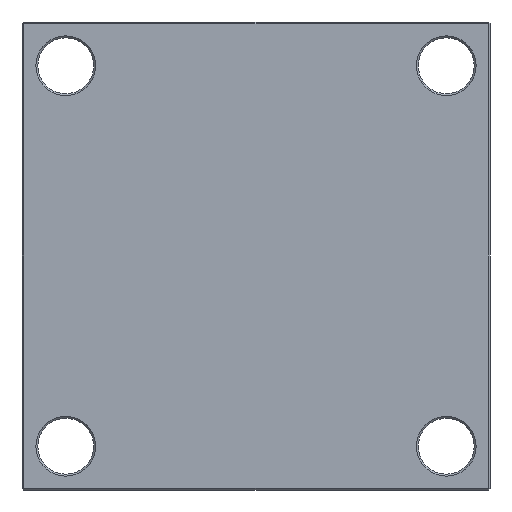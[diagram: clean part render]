
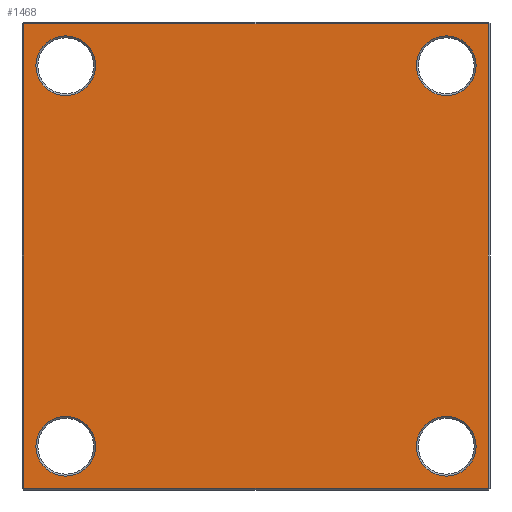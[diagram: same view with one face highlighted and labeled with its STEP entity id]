
A CAD part, front view. The second image highlights one B-rep face of the part: STEP entity #1468.
In plain terms, the highlighted planar face has unit normal (0, -1, 0).
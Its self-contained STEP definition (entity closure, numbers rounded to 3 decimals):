
#17 = EDGE_CURVE ( 'NONE', #808, #747, #1607, .T. ) ;
#77 = FACE_BOUND ( 'NONE', #450, .T. ) ;
#80 = EDGE_LOOP ( 'NONE', ( #269, #1526, #1813, #823 ) ) ;
#86 = DIRECTION ( 'NONE',  ( 0., 1., 0. ) ) ;
#132 = CARTESIAN_POINT ( 'NONE',  ( -122., 0., -122. ) ) ;
#158 = VECTOR ( 'NONE', #528, 1000. ) ;
#180 = EDGE_CURVE ( 'NONE', #1777, #328, #815, .T. ) ;
#183 = EDGE_CURVE ( 'NONE', #1258, #2123, #1201, .T. ) ;
#266 = EDGE_CURVE ( 'NONE', #2071, #1097, #1376, .T. ) ;
#269 = ORIENTED_EDGE ( 'NONE', *, *, #611, .T. ) ;
#283 = AXIS2_PLACEMENT_3D ( 'NONE', #937, #863, #965 ) ;
#285 = ORIENTED_EDGE ( 'NONE', *, *, #17, .T. ) ;
#317 = CARTESIAN_POINT ( 'NONE',  ( -100., 0., -115.7 ) ) ;
#323 = CARTESIAN_POINT ( 'NONE',  ( 0., 0., -122. ) ) ;
#328 = VERTEX_POINT ( 'NONE', #1828 ) ;
#335 = CARTESIAN_POINT ( 'NONE',  ( 122., 0., -122. ) ) ;
#343 = ORIENTED_EDGE ( 'NONE', *, *, #786, .T. ) ;
#363 = CARTESIAN_POINT ( 'NONE',  ( 100., 0., 84.3 ) ) ;
#364 = EDGE_CURVE ( 'NONE', #2123, #1258, #2145, .T. ) ;
#401 = AXIS2_PLACEMENT_3D ( 'NONE', #1270, #1289, #1279 ) ;
#450 = EDGE_LOOP ( 'NONE', ( #1552, #285 ) ) ;
#466 = CARTESIAN_POINT ( 'NONE',  ( -100., 0., -100. ) ) ;
#491 = AXIS2_PLACEMENT_3D ( 'NONE', #1428, #1413, #1166 ) ;
#501 = EDGE_CURVE ( 'NONE', #328, #1777, #1630, .T. ) ;
#526 = DIRECTION ( 'NONE',  ( 0., 0., 1. ) ) ;
#528 = DIRECTION ( 'NONE',  ( 0., 0., -1. ) ) ;
#534 = LINE ( 'NONE', #323, #1364 ) ;
#564 = FACE_BOUND ( 'NONE', #1059, .T. ) ;
#585 = DIRECTION ( 'NONE',  ( 0., 0., 1. ) ) ;
#606 = DIRECTION ( 'NONE',  ( 0., 1., 0. ) ) ;
#611 = EDGE_CURVE ( 'NONE', #845, #2066, #1215, .T. ) ;
#621 = FACE_BOUND ( 'NONE', #934, .T. ) ;
#645 = CARTESIAN_POINT ( 'NONE',  ( 100., 0., -115.7 ) ) ;
#675 = CARTESIAN_POINT ( 'NONE',  ( 122., 0., 0. ) ) ;
#710 = CARTESIAN_POINT ( 'NONE',  ( 100., 0., -100. ) ) ;
#711 = CARTESIAN_POINT ( 'NONE',  ( -100., 0., 100. ) ) ;
#716 = EDGE_LOOP ( 'NONE', ( #343, #2048 ) ) ;
#741 = EDGE_CURVE ( 'NONE', #2066, #2072, #800, .T. ) ;
#747 = VERTEX_POINT ( 'NONE', #888 ) ;
#757 = LINE ( 'NONE', #1506, #158 ) ;
#760 = CARTESIAN_POINT ( 'NONE',  ( 100., 0., -84.3 ) ) ;
#786 = EDGE_CURVE ( 'NONE', #1097, #2071, #2006, .T. ) ;
#789 = DIRECTION ( 'NONE',  ( 0., 0., 1. ) ) ;
#800 = LINE ( 'NONE', #1025, #1615 ) ;
#808 = VERTEX_POINT ( 'NONE', #1523 ) ;
#815 = CIRCLE ( 'NONE', #283, 15.7 ) ;
#823 = ORIENTED_EDGE ( 'NONE', *, *, #944, .T. ) ;
#842 = EDGE_CURVE ( 'NONE', #2072, #1118, #757, .T. ) ;
#845 = VERTEX_POINT ( 'NONE', #335 ) ;
#863 = DIRECTION ( 'NONE',  ( 0., 1., 0. ) ) ;
#888 = CARTESIAN_POINT ( 'NONE',  ( -100., 0., 84.3 ) ) ;
#902 = DIRECTION ( 'NONE',  ( -1., 0., 0. ) ) ;
#918 = AXIS2_PLACEMENT_3D ( 'NONE', #711, #86, #1912 ) ;
#934 = EDGE_LOOP ( 'NONE', ( #2004, #1636 ) ) ;
#937 = CARTESIAN_POINT ( 'NONE',  ( 100., 0., 100. ) ) ;
#944 = EDGE_CURVE ( 'NONE', #1118, #845, #534, .T. ) ;
#965 = DIRECTION ( 'NONE',  ( 0., 0., 1. ) ) ;
#969 = AXIS2_PLACEMENT_3D ( 'NONE', #1018, #2173, #1035 ) ;
#980 = ORIENTED_EDGE ( 'NONE', *, *, #364, .T. ) ;
#1018 = CARTESIAN_POINT ( 'NONE',  ( -100., 0., -100. ) ) ;
#1025 = CARTESIAN_POINT ( 'NONE',  ( 0., 0., 122. ) ) ;
#1035 = DIRECTION ( 'NONE',  ( 0., 0., 1. ) ) ;
#1053 = CARTESIAN_POINT ( 'NONE',  ( 122., 0., 122. ) ) ;
#1059 = EDGE_LOOP ( 'NONE', ( #1359, #980 ) ) ;
#1086 = CARTESIAN_POINT ( 'NONE',  ( -100., 0., -84.3 ) ) ;
#1091 = CARTESIAN_POINT ( 'NONE',  ( -122., 0., 122. ) ) ;
#1097 = VERTEX_POINT ( 'NONE', #317 ) ;
#1118 = VERTEX_POINT ( 'NONE', #132 ) ;
#1166 = DIRECTION ( 'NONE',  ( 0., 0., 1. ) ) ;
#1201 = CIRCLE ( 'NONE', #401, 15.7 ) ;
#1215 = LINE ( 'NONE', #675, #2030 ) ;
#1251 = CARTESIAN_POINT ( 'NONE',  ( 0., 0., 0. ) ) ;
#1258 = VERTEX_POINT ( 'NONE', #645 ) ;
#1270 = CARTESIAN_POINT ( 'NONE',  ( 100., 0., -100. ) ) ;
#1279 = DIRECTION ( 'NONE',  ( 0., 0., 1. ) ) ;
#1289 = DIRECTION ( 'NONE',  ( 0., 1., 0. ) ) ;
#1294 = AXIS2_PLACEMENT_3D ( 'NONE', #2055, #2050, #2036 ) ;
#1314 = AXIS2_PLACEMENT_3D ( 'NONE', #466, #1489, #526 ) ;
#1359 = ORIENTED_EDGE ( 'NONE', *, *, #183, .T. ) ;
#1364 = VECTOR ( 'NONE', #1816, 1000. ) ;
#1376 = CIRCLE ( 'NONE', #1314, 15.7 ) ;
#1413 = DIRECTION ( 'NONE',  ( 0., 1., 0. ) ) ;
#1428 = CARTESIAN_POINT ( 'NONE',  ( -100., 0., 100. ) ) ;
#1468 = ADVANCED_FACE ( 'NONE', ( #1876, #564, #621, #77, #1820 ), #1739, .F. ) ;
#1489 = DIRECTION ( 'NONE',  ( 0., 1., 0. ) ) ;
#1506 = CARTESIAN_POINT ( 'NONE',  ( -122., 0., 0. ) ) ;
#1523 = CARTESIAN_POINT ( 'NONE',  ( -100., 0., 115.7 ) ) ;
#1526 = ORIENTED_EDGE ( 'NONE', *, *, #741, .T. ) ;
#1552 = ORIENTED_EDGE ( 'NONE', *, *, #1750, .T. ) ;
#1575 = AXIS2_PLACEMENT_3D ( 'NONE', #710, #606, #789 ) ;
#1607 = CIRCLE ( 'NONE', #491, 15.7 ) ;
#1615 = VECTOR ( 'NONE', #902, 1000. ) ;
#1630 = CIRCLE ( 'NONE', #1294, 15.7 ) ;
#1636 = ORIENTED_EDGE ( 'NONE', *, *, #501, .T. ) ;
#1650 = CIRCLE ( 'NONE', #918, 15.7 ) ;
#1739 = PLANE ( 'NONE',  #2132 ) ;
#1750 = EDGE_CURVE ( 'NONE', #747, #808, #1650, .T. ) ;
#1777 = VERTEX_POINT ( 'NONE', #363 ) ;
#1813 = ORIENTED_EDGE ( 'NONE', *, *, #842, .T. ) ;
#1816 = DIRECTION ( 'NONE',  ( 1., 0., 0. ) ) ;
#1820 = FACE_OUTER_BOUND ( 'NONE', #80, .T. ) ;
#1828 = CARTESIAN_POINT ( 'NONE',  ( 100., 0., 115.7 ) ) ;
#1876 = FACE_BOUND ( 'NONE', #716, .T. ) ;
#1904 = DIRECTION ( 'NONE',  ( 0., 0., 1. ) ) ;
#1912 = DIRECTION ( 'NONE',  ( 0., 0., 1. ) ) ;
#2004 = ORIENTED_EDGE ( 'NONE', *, *, #180, .T. ) ;
#2006 = CIRCLE ( 'NONE', #969, 15.7 ) ;
#2030 = VECTOR ( 'NONE', #585, 1000. ) ;
#2036 = DIRECTION ( 'NONE',  ( 0., 0., 1. ) ) ;
#2048 = ORIENTED_EDGE ( 'NONE', *, *, #266, .T. ) ;
#2050 = DIRECTION ( 'NONE',  ( 0., 1., 0. ) ) ;
#2055 = CARTESIAN_POINT ( 'NONE',  ( 100., 0., 100. ) ) ;
#2065 = DIRECTION ( 'NONE',  ( 0., 1., 0. ) ) ;
#2066 = VERTEX_POINT ( 'NONE', #1053 ) ;
#2071 = VERTEX_POINT ( 'NONE', #1086 ) ;
#2072 = VERTEX_POINT ( 'NONE', #1091 ) ;
#2123 = VERTEX_POINT ( 'NONE', #760 ) ;
#2132 = AXIS2_PLACEMENT_3D ( 'NONE', #1251, #2065, #1904 ) ;
#2145 = CIRCLE ( 'NONE', #1575, 15.7 ) ;
#2173 = DIRECTION ( 'NONE',  ( 0., 1., 0. ) ) ;
